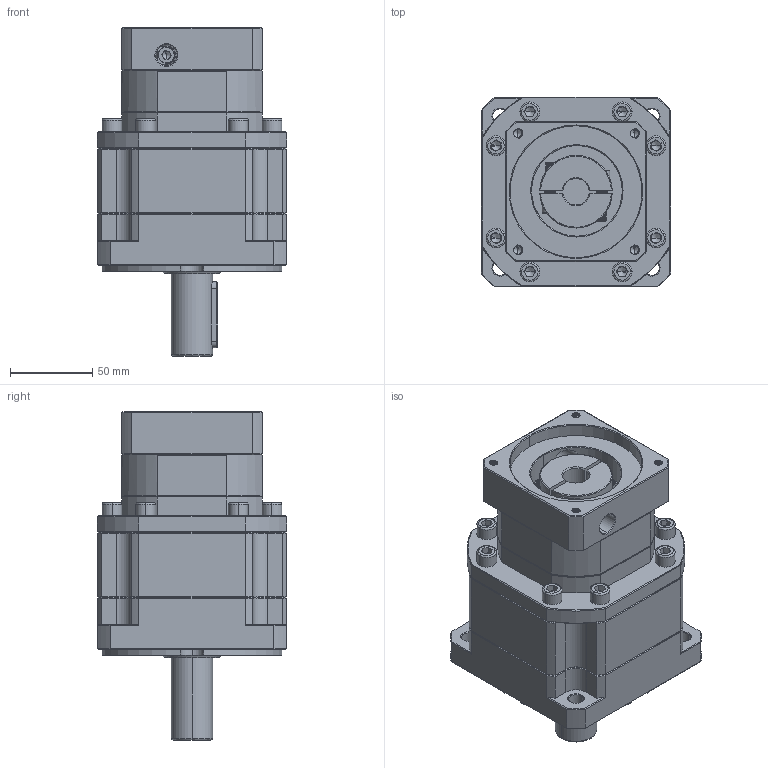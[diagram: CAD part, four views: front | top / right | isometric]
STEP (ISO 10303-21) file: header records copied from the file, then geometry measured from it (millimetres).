
FILE_DESCRIPTION (( 'STEP AP214' ), '1' );
FILE_NAME ('ZB115A-D25-L2-P2-16-80-100-M6.step', '2023-08-26T09:59:33', ( '' ), ( '' ), 'SwSTEP 2.0', 'SolidWorks 2016', '' );
FILE_SCHEMA (( 'AUTOMOTIVE_DESIGN' ));
Length unit declared in the file: millimetre
Products named in the file (1): ZB115A-D25-L2-P2-16-80-100-M6
Bounding box: 115 x 115 x 199 mm (x, y, z)
Volume: 1351885.4 mm3; surface area: 133194.7 mm2
Topology: 5 solids, 6 shells, 2411 faces, 6320 edges, 4011 vertices
Faces by surface type: plane 1190, bspline 427, cylinder 425, cone 354, torus 15
Entity records: 128156 total; most frequent: CARTESIAN_POINT 45933, ORIENTED_EDGE 12564, DIRECTION 9936, EDGE_CURVE 6282, VECTOR 4038, LINE 4038, VERTEX_POINT 4011, AXIS2_PLACEMENT_3D 2949
